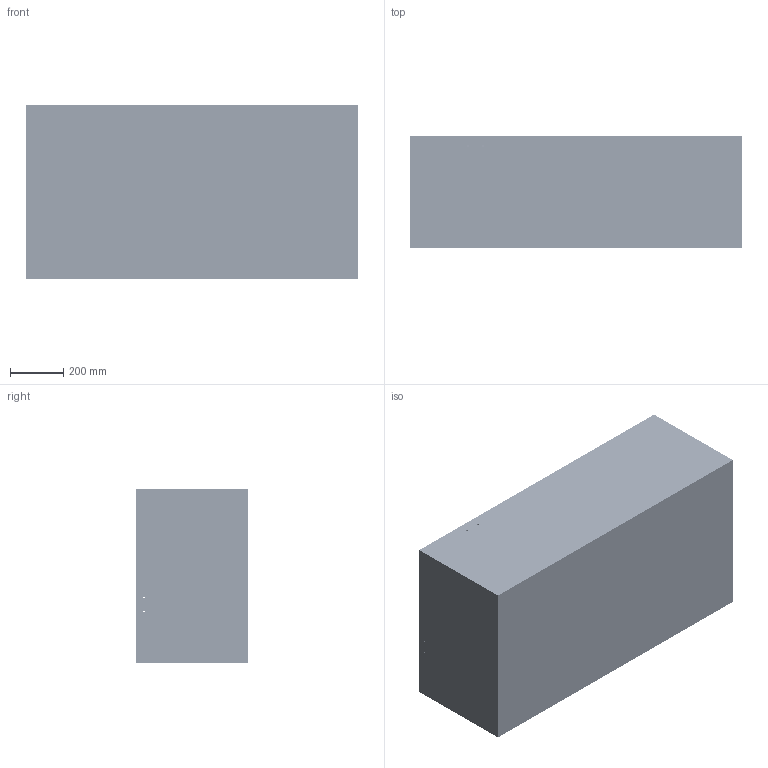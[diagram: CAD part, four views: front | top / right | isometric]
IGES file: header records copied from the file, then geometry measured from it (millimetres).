
Start section: SolidWorks IGES file using analytic representation for surfaces
Global section: file name: C:\Working\550 case\0550 OEM file\0550 BASE STEP FILE.IGS; native system: SolidWorks 2007; preprocessor: SolidWorks 2007; author: mhakami; date: 100517.102935; units: inch
Bounding box: 1251.71 x 419.86 x 654.81 mm (x, y, z)
Surface area: 5965747 mm2 (no closed solid volume)
Topology: 0 solids, 0 shells, 8680 faces, 84071 edges, 83995 vertices
Faces by surface type: revolution 5126, bspline 3554
